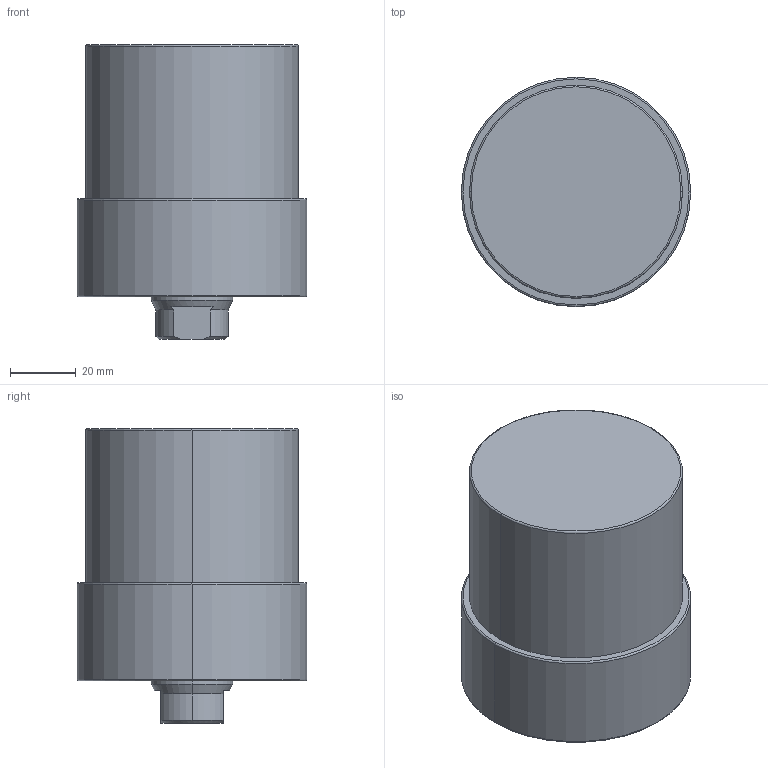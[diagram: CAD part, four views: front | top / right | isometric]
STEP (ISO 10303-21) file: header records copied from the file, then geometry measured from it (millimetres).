
FILE_DESCRIPTION (( 'STEP AP203' ), '1' );
FILE_NAME ('CLLU-065GA-030.STEP', '2020-01-06T08:05:53', ( '' ), ( '' ), 'SwSTEP 2.0', 'SolidWorks 2015', '' );
FILE_SCHEMA (( 'CONFIG_CONTROL_DESIGN' ));
Length unit declared in the file: millimetre
Products named in the file (1): CLLU-065GA-030
Bounding box: 70 x 70 x 90 mm (x, y, z)
Volume: 271951.2 mm3; surface area: 26761.4 mm2
Topology: 1 solids, 1 shells, 64 faces, 145 edges, 82 vertices
Faces by surface type: cone 25, cylinder 23, plane 10, torus 6
Entity records: 1811 total; most frequent: DIRECTION 332, CARTESIAN_POINT 310, ORIENTED_EDGE 270, AXIS2_PLACEMENT_3D 140, EDGE_CURVE 135, VERTEX_POINT 82, CIRCLE 75, EDGE_LOOP 73
